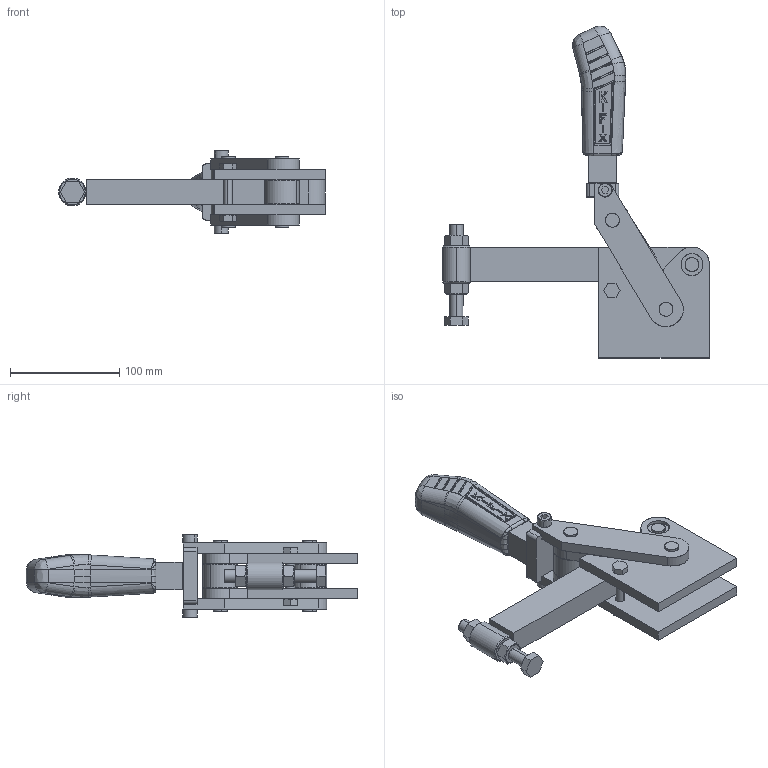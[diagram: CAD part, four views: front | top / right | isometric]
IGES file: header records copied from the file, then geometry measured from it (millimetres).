
Start section: SolidWorks IGES file using analytic representation for surfaces
Global section: file name: C:\Projetos\Grampos\KF-875\KF-875.IGS; native system: SolidWorks 2013; preprocessor: SolidWorks 2013; author: Ricardo; date: 140813.182526; units: millimetre
Bounding box: 244.4 x 304.08 x 76.5 mm (x, y, z)
Surface area: 188021.2 mm2 (no closed solid volume)
Topology: 0 solids, 0 shells, 892 faces, 11603 edges, 11591 vertices
Faces by surface type: bspline 513, revolution 379
